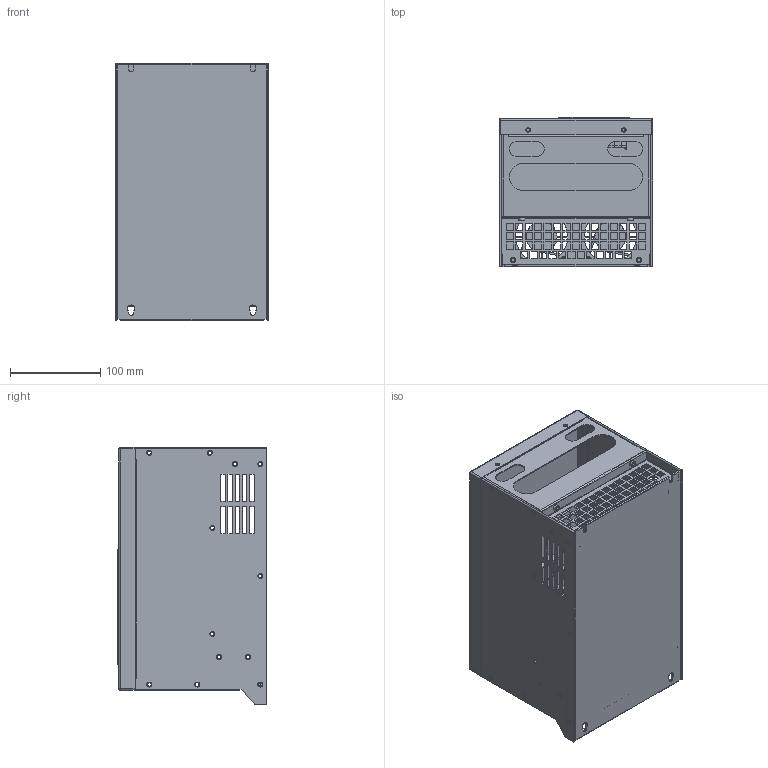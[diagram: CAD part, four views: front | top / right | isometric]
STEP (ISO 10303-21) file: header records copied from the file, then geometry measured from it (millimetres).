
FILE_DESCRIPTION((''),'2;1');
FILE_NAME('SD200-4T0110','2020-05-25T',('ranqinwen'),(''),'CREO PARAMETRIC BY PTC INC, 2016260','CREO PARAMETRIC BY PTC INC, 2016260','');
FILE_SCHEMA(('AUTOMOTIVE_DESIGN { 1 0 10303 214 1 1 1 1 }'));
Products named in the file (1): SD200-4T0110
Bounding box: 170 x 165.8 x 285 mm (x, y, z)
Surface area: 660741.1 mm2 (no closed solid volume)
Topology: 0 solids, 105 shells, 4999 faces, 13197 edges, 8388 vertices
Faces by surface type: plane 3140, cylinder 1348, extrusion 209, torus 132, cone 96, bspline 52, sphere 18, revolution 4
Entity records: 232948 total; most frequent: CARTESIAN_POINT 30786, ORIENTED_EDGE 26358, DIRECTION 25617, PRESENTATION_STYLE_ASSIGNMENT 18496, STYLED_ITEM 13497, CURVE_STYLE 13392, EDGE_CURVE 13179, VECTOR 9595
